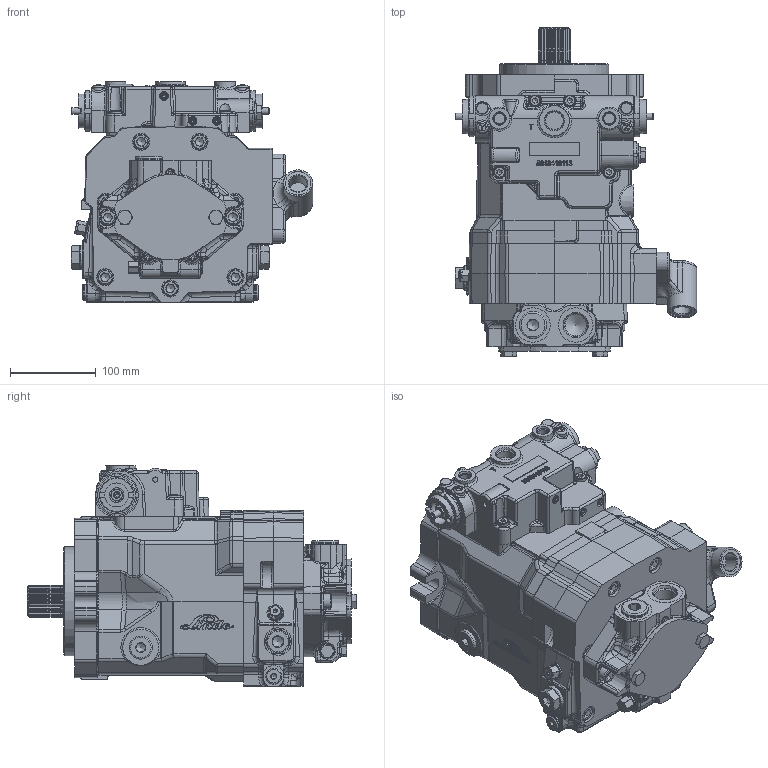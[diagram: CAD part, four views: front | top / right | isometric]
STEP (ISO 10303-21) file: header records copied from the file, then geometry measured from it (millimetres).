
FILE_DESCRIPTION(/* description */ (''),/* implementation_level */ '2;1');
FILE_NAME(/* name */ 'HPV105-02 R H1.stp',/* time_stamp */ '2012-09-18T13:23:41+02:00',/* author */ (''),/* organization */ (''),/* preprocessor_version */ 'ST-DEVELOPER v11',/* originating_system */ 'SIEMENS PLM Software NX 7.5',/* authorisation */ '');
FILE_SCHEMA (('AUTOMOTIVE_DESIGN { 1 0 10303 214 1 1 1 1 }'));
Products named in the file (1): HPV105-02 R H1
Bounding box: 281.5 x 384.5 x 257 mm (x, y, z)
Volume: 10957276.6 mm3; surface area: 697122 mm2
Topology: 15 solids, 21 shells, 3900 faces, 9510 edges, 5727 vertices
Faces by surface type: plane 1158, cylinder 1073, bspline 730, cone 399, extrusion 230, torus 172, revolution 84, sphere 54
Full cylindrical faces by diameter (mm): 3 x2, 4 x3, 5 x7, 5.2 x3, 6 x7, 6.8 x2, 6.985 x4, 8 x11, 8.5 x6, 10 x22, 10.2 x12, 10.579 x8, 10.7 x3, 11 x11, 12 x11, 12.2 x4, 12.5 x6, 12.8 x6, 13 x6, 13.5 x1, 14.8 x1, 15 x4, 15.852 x2, 17 x6, 17.5 x1, 18 x10, 18.8 x4, 19.7 x1, 20 x11, 20.5 x3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
Entity records: 134099 total; most frequent: CARTESIAN_POINT 52331, ORIENTED_EDGE 17372, DIRECTION 15329, EDGE_CURVE 8686, AXIS2_PLACEMENT_3D 6054, VERTEX_POINT 5538, EDGE_LOOP 4573, ADVANCED_FACE 3897
